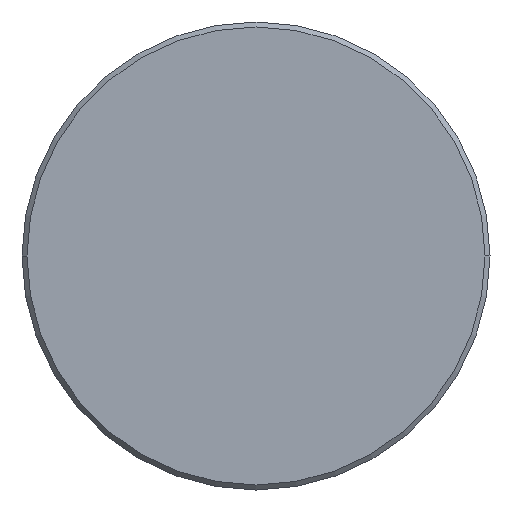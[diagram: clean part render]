
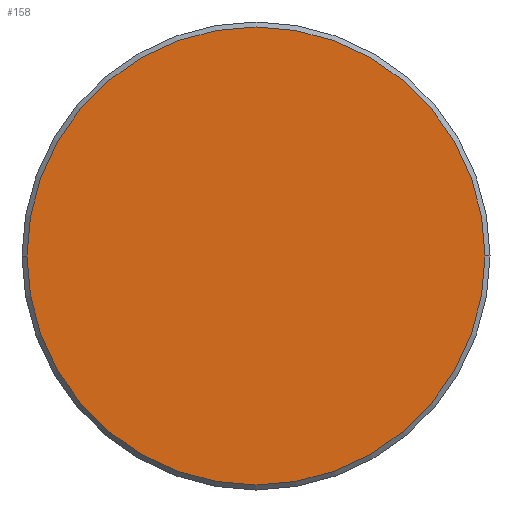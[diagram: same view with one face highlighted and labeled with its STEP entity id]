
A CAD part, left-side view. The second image highlights one B-rep face of the part: STEP entity #158.
In plain terms, the highlighted planar face has unit normal (-1, 0, 0).
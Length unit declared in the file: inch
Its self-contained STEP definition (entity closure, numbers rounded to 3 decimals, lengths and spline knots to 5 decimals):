
#6 = VERTEX_POINT ( 'NONE', #195 ) ;
#13 = VERTEX_POINT ( 'NONE', #131 ) ;
#40 = EDGE_CURVE ( 'NONE', #13, #6, #103, .T. ) ;
#80 = DIRECTION ( 'NONE',  ( -1., 0., 0. ) ) ;
#81 = CARTESIAN_POINT ( 'NONE',  ( 0., 0., 0. ) ) ;
#103 = CIRCLE ( 'NONE', #136, 0.1835 ) ;
#108 = PLANE ( 'NONE',  #162 ) ;
#117 = DIRECTION ( 'NONE',  ( -1., 0., 0. ) ) ;
#131 = CARTESIAN_POINT ( 'NONE',  ( 0., -0.1835, 0. ) ) ;
#136 = AXIS2_PLACEMENT_3D ( 'NONE', #81, #80, #237 ) ;
#146 = CIRCLE ( 'NONE', #233, 0.1835 ) ;
#158 = ADVANCED_FACE ( 'NONE', ( #191 ), #108, .T. ) ;
#162 = AXIS2_PLACEMENT_3D ( 'NONE', #327, #214, #272 ) ;
#190 = EDGE_LOOP ( 'NONE', ( #353, #239 ) ) ;
#191 = FACE_OUTER_BOUND ( 'NONE', #190, .T. ) ;
#195 = CARTESIAN_POINT ( 'NONE',  ( 0., 0.1835, 0. ) ) ;
#214 = DIRECTION ( 'NONE',  ( -1., 0., 0. ) ) ;
#222 = EDGE_CURVE ( 'NONE', #6, #13, #146, .T. ) ;
#233 = AXIS2_PLACEMENT_3D ( 'NONE', #277, #117, #246 ) ;
#237 = DIRECTION ( 'NONE',  ( 0., -1., 0. ) ) ;
#239 = ORIENTED_EDGE ( 'NONE', *, *, #40, .T. ) ;
#246 = DIRECTION ( 'NONE',  ( 0., -1., 0. ) ) ;
#272 = DIRECTION ( 'NONE',  ( 0., -1., 0. ) ) ;
#277 = CARTESIAN_POINT ( 'NONE',  ( 0., 0., 0. ) ) ;
#327 = CARTESIAN_POINT ( 'NONE',  ( 0., 0., 0. ) ) ;
#353 = ORIENTED_EDGE ( 'NONE', *, *, #222, .T. ) ;
